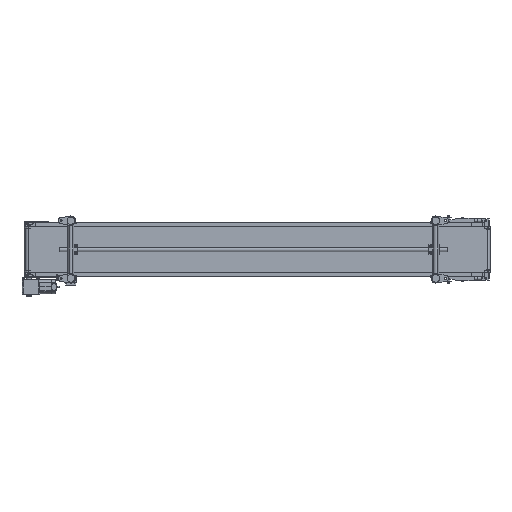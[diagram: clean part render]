
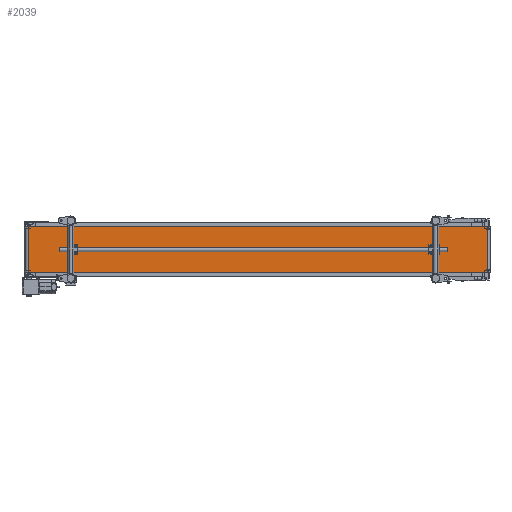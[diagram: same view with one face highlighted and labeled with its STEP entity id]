
A CAD part, front view. The second image highlights one B-rep face of the part: STEP entity #2039.
In plain terms, the highlighted planar face has unit normal (0.011, -1, 0).
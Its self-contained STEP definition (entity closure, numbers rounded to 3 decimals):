
#2039=ADVANCED_FACE('',(#6253),#6252,.F.);
#6252=PLANE('',#23385);
#6253=FACE_OUTER_BOUND('',#23386,.T.);
#23382=CARTESIAN_POINT('',(2994.067,-26.285,-160.));
#23383=DIRECTION('',(-0.011,1.,0.));
#23384=DIRECTION('',(-1.,-0.011,0.));
#23385=AXIS2_PLACEMENT_3D('',#23382,#23383,#23384);
#23386=EDGE_LOOP('',(#33945,#33946,#33947,#33948));
#33945=ORIENTED_EDGE('',*,*,#42109,.T.);
#33946=ORIENTED_EDGE('',*,*,#42116,.F.);
#33947=ORIENTED_EDGE('',*,*,#42103,.F.);
#33948=ORIENTED_EDGE('',*,*,#42117,.T.);
#42103=EDGE_CURVE('',#50344,#50329,#50351,.T.);
#42109=EDGE_CURVE('',#50393,#50385,#50394,.T.);
#42116=EDGE_CURVE('',#50329,#50385,#50441,.T.);
#42117=EDGE_CURVE('',#50344,#50393,#50447,.T.);
#50329=VERTEX_POINT('',#78027);
#50344=VERTEX_POINT('',#78037);
#50351=LINE('',#78042,#78043);
#50385=VERTEX_POINT('',#78063);
#50393=VERTEX_POINT('',#78069);
#50394=LINE('',#78070,#78071);
#50441=LINE('',#78099,#78100);
#50447=LINE('',#78102,#78103);
#78027=CARTESIAN_POINT('',(2984.068,-26.399,150.));
#78037=CARTESIAN_POINT('',(30.857,-59.948,150.));
#78042=CARTESIAN_POINT('',(30.857,-59.948,150.));
#78043=VECTOR('',#78044,2953.401);
#78044=DIRECTION('',(1.,0.011,0.));
#78063=CARTESIAN_POINT('',(2984.068,-26.399,-150.));
#78069=CARTESIAN_POINT('',(30.857,-59.948,-150.));
#78070=CARTESIAN_POINT('',(30.857,-59.948,-150.));
#78071=VECTOR('',#78072,2953.401);
#78072=DIRECTION('',(1.,0.011,0.));
#78099=CARTESIAN_POINT('',(2984.068,-26.399,150.));
#78100=VECTOR('',#78101,300.);
#78101=DIRECTION('',(0.,0.,-1.));
#78102=CARTESIAN_POINT('',(30.857,-59.948,150.));
#78103=VECTOR('',#78104,300.);
#78104=DIRECTION('',(0.,0.,-1.));
